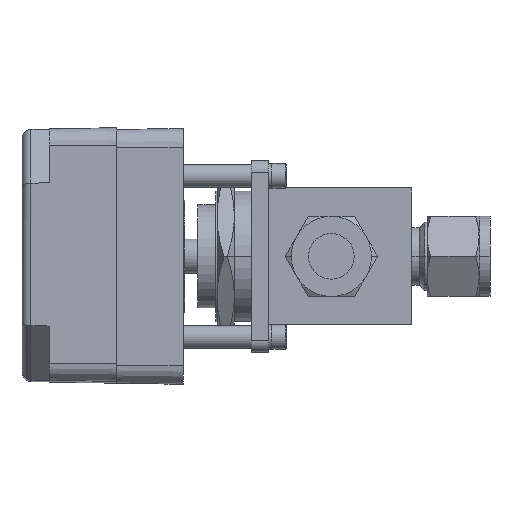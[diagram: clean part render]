
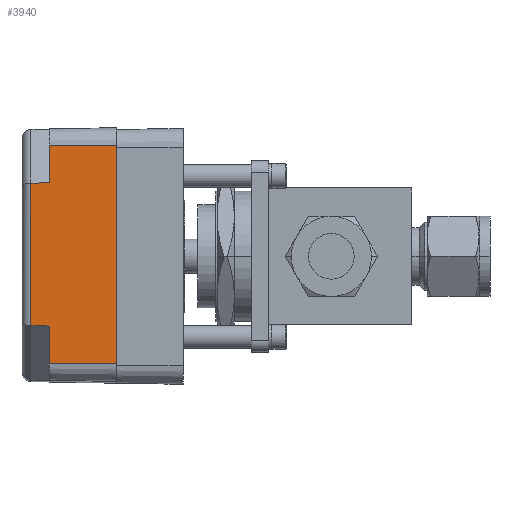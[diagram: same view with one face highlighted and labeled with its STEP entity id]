
A CAD part, left-side view. The second image highlights one B-rep face of the part: STEP entity #3940.
In plain terms, the highlighted planar face has unit normal (-1, 0.018, 0.005) as drawn and (-1, 0.017, 0) by its records, which use the part's own axes.
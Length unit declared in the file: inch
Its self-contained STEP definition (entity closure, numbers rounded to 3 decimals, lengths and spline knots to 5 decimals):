
#11 = DIRECTION ( 'NONE',  ( 0., 0., 1. ) ) ;
#220 = CARTESIAN_POINT ( 'NONE',  ( -1.97953, 0., 1.19872 ) ) ;
#1371 = CARTESIAN_POINT ( 'NONE',  ( -1.96661, 0.74, -1.19872 ) ) ;
#1383 = CARTESIAN_POINT ( 'NONE',  ( -1.96137, 1.04, -1.19872 ) ) ;
#1932 = LINE ( 'NONE', #11189, #6592 ) ;
#2683 = AXIS2_PLACEMENT_3D ( 'NONE', #1383, #25709, #26886 ) ;
#2843 = EDGE_CURVE ( 'NONE', #22942, #22747, #20755, .T. ) ;
#3014 = FACE_OUTER_BOUND ( 'NONE', #9729, .T. ) ;
#3168 = ORIENTED_EDGE ( 'NONE', *, *, #22246, .T. ) ;
#3869 = ORIENTED_EDGE ( 'NONE', *, *, #9102, .T. ) ;
#3910 = DIRECTION ( 'NONE',  ( 0.017, 1., 0. ) ) ;
#3940 = ADVANCED_FACE ( 'NONE', ( #3014 ), #5246, .T. ) ;
#4712 = ORIENTED_EDGE ( 'NONE', *, *, #29710, .T. ) ;
#5246 = PLANE ( 'NONE',  #2683 ) ;
#5751 = LINE ( 'NONE', #15066, #19058 ) ;
#5894 = LINE ( 'NONE', #15214, #21869 ) ;
#6578 = VERTEX_POINT ( 'NONE', #14452 ) ;
#6592 = VECTOR ( 'NONE', #20542, 39.37008 ) ;
#7376 = CARTESIAN_POINT ( 'NONE',  ( -1.96112, 1.05432, 0.78269 ) ) ;
#8065 = VECTOR ( 'NONE', #16712, 39.37008 ) ;
#8277 = EDGE_CURVE ( 'NONE', #18677, #10543, #22122, .T. ) ;
#8597 = ORIENTED_EDGE ( 'NONE', *, *, #23527, .T. ) ;
#9102 = EDGE_CURVE ( 'NONE', #22975, #20675, #18941, .T. ) ;
#9729 = EDGE_LOOP ( 'NONE', ( #4712, #19099, #3168, #15862, #25777, #3869, #8597, #14492 ) ) ;
#10150 = CARTESIAN_POINT ( 'NONE',  ( -1.96309, 0.94175, 0.78351 ) ) ;
#10543 = VERTEX_POINT ( 'NONE', #29759 ) ;
#11189 = CARTESIAN_POINT ( 'NONE',  ( -1.96661, 0.74, -1.19872 ) ) ;
#14452 = CARTESIAN_POINT ( 'NONE',  ( -1.96661, 0.74, 0.78496 ) ) ;
#14492 = ORIENTED_EDGE ( 'NONE', *, *, #29257, .T. ) ;
#15066 = CARTESIAN_POINT ( 'NONE',  ( -1.97953, 0., -1.19872 ) ) ;
#15214 = CARTESIAN_POINT ( 'NONE',  ( -1.96143, 1.03699, -0.78282 ) ) ;
#15523 = LINE ( 'NONE', #24853, #25396 ) ;
#15594 = VECTOR ( 'NONE', #11, 39.37008 ) ;
#15862 = ORIENTED_EDGE ( 'NONE', *, *, #8277, .F. ) ;
#16433 = EDGE_CURVE ( 'NONE', #22975, #18677, #5751, .T. ) ;
#16712 = DIRECTION ( 'NONE',  ( 0.017, 1., -0.007 ) ) ;
#16939 = VERTEX_POINT ( 'NONE', #22958 ) ;
#17415 = CARTESIAN_POINT ( 'NONE',  ( -1.97953, 0., -1.19872 ) ) ;
#18677 = VERTEX_POINT ( 'NONE', #1371 ) ;
#18799 = DIRECTION ( 'NONE',  ( 0., 0., 1. ) ) ;
#18865 = CARTESIAN_POINT ( 'NONE',  ( -1.97953, 0., -1.19872 ) ) ;
#18941 = LINE ( 'NONE', #18865, #22237 ) ;
#19058 = VECTOR ( 'NONE', #24404, 39.37008 ) ;
#19099 = ORIENTED_EDGE ( 'NONE', *, *, #2843, .T. ) ;
#20542 = DIRECTION ( 'NONE',  ( 0., 0., -1. ) ) ;
#20675 = VERTEX_POINT ( 'NONE', #220 ) ;
#20755 = LINE ( 'NONE', #23823, #27436 ) ;
#21869 = VECTOR ( 'NONE', #24537, 39.37008 ) ;
#22079 = CARTESIAN_POINT ( 'NONE',  ( -1.96661, 0.74, -1.19872 ) ) ;
#22122 = LINE ( 'NONE', #22079, #15594 ) ;
#22237 = VECTOR ( 'NONE', #18799, 39.37008 ) ;
#22246 = EDGE_CURVE ( 'NONE', #22747, #10543, #5894, .T. ) ;
#22747 = VERTEX_POINT ( 'NONE', #24806 ) ;
#22942 = VERTEX_POINT ( 'NONE', #10150 ) ;
#22958 = CARTESIAN_POINT ( 'NONE',  ( -1.96661, 0.74, 1.19872 ) ) ;
#22975 = VERTEX_POINT ( 'NONE', #17415 ) ;
#23527 = EDGE_CURVE ( 'NONE', #20675, #16939, #15523, .T. ) ;
#23823 = CARTESIAN_POINT ( 'NONE',  ( -1.96309, 0.94175, -1.19872 ) ) ;
#24404 = DIRECTION ( 'NONE',  ( 0.017, 1., 0. ) ) ;
#24537 = DIRECTION ( 'NONE',  ( -0.017, -1., -0.007 ) ) ;
#24806 = CARTESIAN_POINT ( 'NONE',  ( -1.96309, 0.94175, -0.78351 ) ) ;
#24853 = CARTESIAN_POINT ( 'NONE',  ( -1.97953, 0., 1.19872 ) ) ;
#25396 = VECTOR ( 'NONE', #3910, 39.37008 ) ;
#25709 = DIRECTION ( 'NONE',  ( -1., 0.017, 0. ) ) ;
#25777 = ORIENTED_EDGE ( 'NONE', *, *, #16433, .F. ) ;
#26589 = DIRECTION ( 'NONE',  ( 0., 0., -1. ) ) ;
#26886 = DIRECTION ( 'NONE',  ( -0.017, -1., 0. ) ) ;
#27436 = VECTOR ( 'NONE', #26589, 39.37008 ) ;
#28392 = LINE ( 'NONE', #7376, #8065 ) ;
#29257 = EDGE_CURVE ( 'NONE', #16939, #6578, #1932, .T. ) ;
#29710 = EDGE_CURVE ( 'NONE', #6578, #22942, #28392, .T. ) ;
#29759 = CARTESIAN_POINT ( 'NONE',  ( -1.96661, 0.74, -0.78496 ) ) ;
